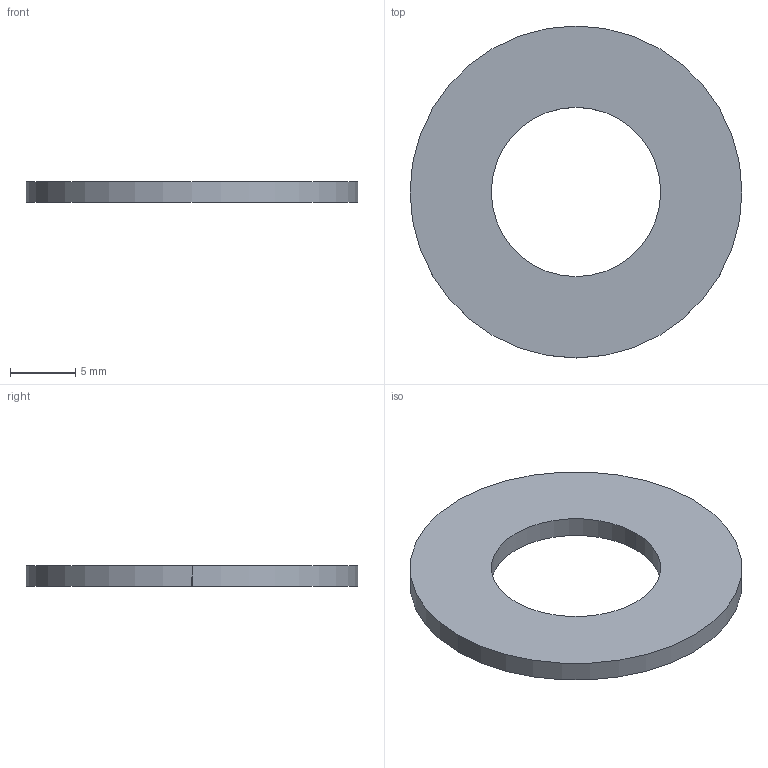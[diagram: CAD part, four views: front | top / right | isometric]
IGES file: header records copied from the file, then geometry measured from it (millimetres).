
Global section: file name: C:\Documents and Settings\Administrator\Desktop\Transfer Temp\bushing-tbb-8-16.igs; native system: AutoDesk Inventor R2.0 ; preprocessor: AutoDesk Inventor Iges Exporter R2.0; author: No Author specified; organization: No Organization specified; date: 20011227.203745; units: inch
Bounding box: 25.4 x 25.4 x 1.56 mm (x, y, z)
Surface area: 938 mm2 (no closed solid volume)
Topology: 0 solids, 0 shells, 6 faces, 24 edges, 24 vertices
Faces by surface type: revolution 4, bspline 2
